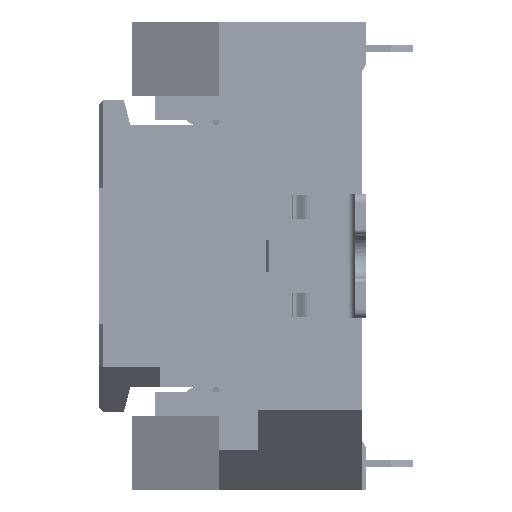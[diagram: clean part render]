
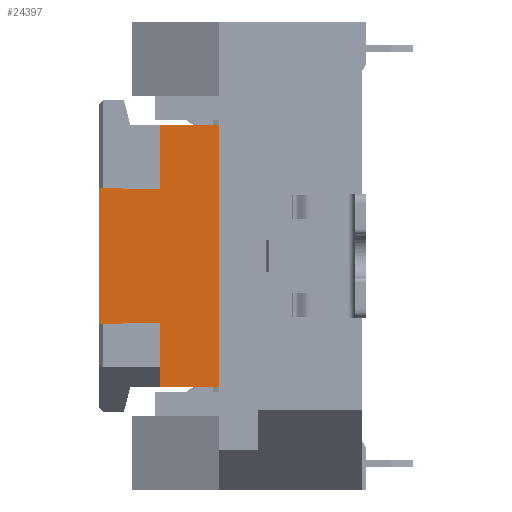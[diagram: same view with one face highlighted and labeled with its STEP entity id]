
A CAD part, left-side view. The second image highlights one B-rep face of the part: STEP entity #24397.
In plain terms, the highlighted planar face has unit normal (-1, 0, 0).
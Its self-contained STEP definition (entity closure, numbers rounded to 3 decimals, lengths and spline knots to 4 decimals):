
#177 = CARTESIAN_POINT ( 'NONE',  ( -13.95, 0.85, -1.93 ) ) ;
#1419 = DIRECTION ( 'NONE',  ( 0., 0., -1. ) ) ;
#6246 = EDGE_CURVE ( 'NONE', #69586, #401630, #162455, .T. ) ;
#6339 = LINE ( 'NONE', #411329, #383858 ) ;
#10008 = EDGE_CURVE ( 'NONE', #460381, #244591, #254526, .T. ) ;
#14517 = LINE ( 'NONE', #301459, #429096 ) ;
#18787 = CARTESIAN_POINT ( 'NONE',  ( -13.95, 0.85, -1.5 ) ) ;
#20241 = VERTEX_POINT ( 'NONE', #179392 ) ;
#22866 = ORIENTED_EDGE ( 'NONE', *, *, #51935, .F. ) ;
#24397 = ADVANCED_FACE ( 'NONE', ( #301022 ), #416670, .F. ) ;
#25829 = CARTESIAN_POINT ( 'NONE',  ( -13.95, 0.1, 2.23 ) ) ;
#42530 = CARTESIAN_POINT ( 'NONE',  ( -13.95, 0.85, 1.93 ) ) ;
#44817 = CARTESIAN_POINT ( 'NONE',  ( -13.95, 1.65, -1.5 ) ) ;
#48988 = CARTESIAN_POINT ( 'NONE',  ( -13.95, 0.1, 2.23 ) ) ;
#49841 = LINE ( 'NONE', #454787, #268506 ) ;
#51935 = EDGE_CURVE ( 'NONE', #116498, #168794, #436389, .T. ) ;
#55383 = EDGE_CURVE ( 'NONE', #168794, #63307, #14517, .T. ) ;
#63307 = VERTEX_POINT ( 'NONE', #359192 ) ;
#69586 = VERTEX_POINT ( 'NONE', #309320 ) ;
#72645 = VECTOR ( 'NONE', #147772, 1000. ) ;
#75921 = DIRECTION ( 'NONE',  ( 0., 0., -1. ) ) ;
#77455 = CARTESIAN_POINT ( 'NONE',  ( -13.95, 5.9, -1.5239 ) ) ;
#80138 = LINE ( 'NONE', #116324, #72645 ) ;
#85173 = LINE ( 'NONE', #48988, #413586 ) ;
#88801 = CARTESIAN_POINT ( 'NONE',  ( -13.95, 1.65, 1.5 ) ) ;
#93917 = VERTEX_POINT ( 'NONE', #177 ) ;
#97534 = VECTOR ( 'NONE', #111676, 1000. ) ;
#104226 = LINE ( 'NONE', #235106, #302902 ) ;
#110849 = EDGE_CURVE ( 'NONE', #20241, #116498, #170540, .T. ) ;
#111676 = DIRECTION ( 'NONE',  ( 0., 1., -0.017 ) ) ;
#116324 = CARTESIAN_POINT ( 'NONE',  ( -13.95, 0.85, -1.93 ) ) ;
#116498 = VERTEX_POINT ( 'NONE', #42530 ) ;
#117415 = ORIENTED_EDGE ( 'NONE', *, *, #354521, .F. ) ;
#118084 = ORIENTED_EDGE ( 'NONE', *, *, #55383, .F. ) ;
#119889 = DIRECTION ( 'NONE',  ( 0., 1., 0. ) ) ;
#124178 = EDGE_CURVE ( 'NONE', #359756, #169704, #295202, .T. ) ;
#133193 = VERTEX_POINT ( 'NONE', #246471 ) ;
#133448 = CARTESIAN_POINT ( 'NONE',  ( -13.95, 0.1, -2.95 ) ) ;
#134454 = DIRECTION ( 'NONE',  ( 0., 0.928, -0.371 ) ) ;
#135659 = DIRECTION ( 'NONE',  ( 0., -1., 0. ) ) ;
#138364 = CARTESIAN_POINT ( 'NONE',  ( -13.95, 4.53, -1.5 ) ) ;
#145471 = LINE ( 'NONE', #138364, #97534 ) ;
#147772 = DIRECTION ( 'NONE',  ( 0., -0.928, -0.371 ) ) ;
#159907 = DIRECTION ( 'NONE',  ( 0., 0., 1. ) ) ;
#161170 = DIRECTION ( 'NONE',  ( 0., 0., -1. ) ) ;
#161656 = DIRECTION ( 'NONE',  ( 0., 1., 0. ) ) ;
#162066 = ORIENTED_EDGE ( 'NONE', *, *, #473639, .F. ) ;
#162455 = LINE ( 'NONE', #133448, #352169 ) ;
#165927 = DIRECTION ( 'NONE',  ( 0., 0., -1. ) ) ;
#168794 = VERTEX_POINT ( 'NONE', #273094 ) ;
#169561 = VECTOR ( 'NONE', #134454, 1000. ) ;
#169704 = VERTEX_POINT ( 'NONE', #386426 ) ;
#169872 = ORIENTED_EDGE ( 'NONE', *, *, #427799, .T. ) ;
#170540 = LINE ( 'NONE', #25829, #169561 ) ;
#179240 = VERTEX_POINT ( 'NONE', #225381 ) ;
#179392 = CARTESIAN_POINT ( 'NONE',  ( -13.95, 0.1, 2.23 ) ) ;
#194138 = VERTEX_POINT ( 'NONE', #468228 ) ;
#194678 = ORIENTED_EDGE ( 'NONE', *, *, #280155, .T. ) ;
#199664 = LINE ( 'NONE', #88801, #309479 ) ;
#204133 = EDGE_CURVE ( 'NONE', #194138, #133193, #329256, .T. ) ;
#210134 = CARTESIAN_POINT ( 'NONE',  ( -13.95, 4.53, -1.5 ) ) ;
#210785 = ORIENTED_EDGE ( 'NONE', *, *, #345842, .F. ) ;
#215746 = CARTESIAN_POINT ( 'NONE',  ( -13.95, 4.53, -1.5 ) ) ;
#221613 = VECTOR ( 'NONE', #279801, 1000. ) ;
#225381 = CARTESIAN_POINT ( 'NONE',  ( -13.95, 0.85, -1.5 ) ) ;
#225801 = VECTOR ( 'NONE', #285954, 1000. ) ;
#235106 = CARTESIAN_POINT ( 'NONE',  ( -13.95, 4.53, -2.95 ) ) ;
#237546 = EDGE_LOOP ( 'NONE', ( #117415, #118084, #22866, #404743, #194678, #169872, #332264, #162066, #424156, #425544, #368846, #336132, #449788, #419795, #392491, #210785 ) ) ;
#242233 = VECTOR ( 'NONE', #161170, 1000. ) ;
#243672 = CARTESIAN_POINT ( 'NONE',  ( -13.95, 0.85, 1.93 ) ) ;
#244591 = VERTEX_POINT ( 'NONE', #431967 ) ;
#246471 = CARTESIAN_POINT ( 'NONE',  ( -13.95, 4.53, 1.5 ) ) ;
#250459 = AXIS2_PLACEMENT_3D ( 'NONE', #414299, #344320, #264875 ) ;
#254526 = LINE ( 'NONE', #322113, #225801 ) ;
#264875 = DIRECTION ( 'NONE',  ( 0., 1., 0. ) ) ;
#268506 = VECTOR ( 'NONE', #119889, 1000. ) ;
#271935 = LINE ( 'NONE', #18787, #242233 ) ;
#273094 = CARTESIAN_POINT ( 'NONE',  ( -13.95, 0.85, 1.5 ) ) ;
#279801 = DIRECTION ( 'NONE',  ( 0., 0., -1. ) ) ;
#280155 = EDGE_CURVE ( 'NONE', #20241, #318966, #85173, .T. ) ;
#285954 = DIRECTION ( 'NONE',  ( 0., 0., 1. ) ) ;
#295202 = LINE ( 'NONE', #215746, #448868 ) ;
#301022 = FACE_OUTER_BOUND ( 'NONE', #237546, .T. ) ;
#301459 = CARTESIAN_POINT ( 'NONE',  ( -13.95, 0.85, 1.5 ) ) ;
#302902 = VECTOR ( 'NONE', #135659, 1000. ) ;
#309320 = CARTESIAN_POINT ( 'NONE',  ( -13.95, 0.1, -2.95 ) ) ;
#309479 = VECTOR ( 'NONE', #165927, 1000. ) ;
#309681 = LINE ( 'NONE', #420598, #317777 ) ;
#316819 = DIRECTION ( 'NONE',  ( 0., -1., -0.017 ) ) ;
#317777 = VECTOR ( 'NONE', #316819, 1000. ) ;
#318966 = VERTEX_POINT ( 'NONE', #383065 ) ;
#322113 = CARTESIAN_POINT ( 'NONE',  ( -13.95, 5.9, -1.5239 ) ) ;
#328514 = EDGE_CURVE ( 'NONE', #93917, #401630, #80138, .T. ) ;
#329256 = LINE ( 'NONE', #476317, #363144 ) ;
#332264 = ORIENTED_EDGE ( 'NONE', *, *, #204133, .T. ) ;
#336132 = ORIENTED_EDGE ( 'NONE', *, *, #424818, .T. ) ;
#344320 = DIRECTION ( 'NONE',  ( 1., 0., 0. ) ) ;
#345842 = EDGE_CURVE ( 'NONE', #424695, #179240, #6339, .T. ) ;
#352169 = VECTOR ( 'NONE', #359801, 1000. ) ;
#354521 = EDGE_CURVE ( 'NONE', #63307, #424695, #199664, .T. ) ;
#359192 = CARTESIAN_POINT ( 'NONE',  ( -13.95, 1.65, 1.5 ) ) ;
#359756 = VERTEX_POINT ( 'NONE', #210134 ) ;
#359801 = DIRECTION ( 'NONE',  ( 0., 0., 1. ) ) ;
#361713 = CARTESIAN_POINT ( 'NONE',  ( -13.95, 0.1, -2.23 ) ) ;
#363144 = VECTOR ( 'NONE', #1419, 1000. ) ;
#368846 = ORIENTED_EDGE ( 'NONE', *, *, #124178, .T. ) ;
#383065 = CARTESIAN_POINT ( 'NONE',  ( -13.95, 0.1, 2.95 ) ) ;
#383858 = VECTOR ( 'NONE', #440332, 1000. ) ;
#386426 = CARTESIAN_POINT ( 'NONE',  ( -13.95, 4.53, -2.95 ) ) ;
#392491 = ORIENTED_EDGE ( 'NONE', *, *, #454012, .F. ) ;
#401630 = VERTEX_POINT ( 'NONE', #361713 ) ;
#402334 = EDGE_CURVE ( 'NONE', #359756, #460381, #145471, .T. ) ;
#404743 = ORIENTED_EDGE ( 'NONE', *, *, #110849, .F. ) ;
#411329 = CARTESIAN_POINT ( 'NONE',  ( -13.95, 1.65, -1.5 ) ) ;
#413586 = VECTOR ( 'NONE', #159907, 1000. ) ;
#414299 = CARTESIAN_POINT ( 'NONE',  ( -13.95, 3., 0. ) ) ;
#416670 = PLANE ( 'NONE',  #250459 ) ;
#419795 = ORIENTED_EDGE ( 'NONE', *, *, #328514, .F. ) ;
#420598 = CARTESIAN_POINT ( 'NONE',  ( -13.95, 5.9, 1.5239 ) ) ;
#424156 = ORIENTED_EDGE ( 'NONE', *, *, #10008, .F. ) ;
#424695 = VERTEX_POINT ( 'NONE', #44817 ) ;
#424818 = EDGE_CURVE ( 'NONE', #169704, #69586, #104226, .T. ) ;
#425544 = ORIENTED_EDGE ( 'NONE', *, *, #402334, .F. ) ;
#427799 = EDGE_CURVE ( 'NONE', #318966, #194138, #49841, .T. ) ;
#429096 = VECTOR ( 'NONE', #161656, 1000. ) ;
#431967 = CARTESIAN_POINT ( 'NONE',  ( -13.95, 5.9, 1.5239 ) ) ;
#436389 = LINE ( 'NONE', #243672, #221613 ) ;
#440332 = DIRECTION ( 'NONE',  ( 0., -1., 0. ) ) ;
#448868 = VECTOR ( 'NONE', #75921, 1000. ) ;
#449788 = ORIENTED_EDGE ( 'NONE', *, *, #6246, .T. ) ;
#454012 = EDGE_CURVE ( 'NONE', #179240, #93917, #271935, .T. ) ;
#454787 = CARTESIAN_POINT ( 'NONE',  ( -13.95, 0.1, 2.95 ) ) ;
#460381 = VERTEX_POINT ( 'NONE', #77455 ) ;
#468228 = CARTESIAN_POINT ( 'NONE',  ( -13.95, 4.53, 2.95 ) ) ;
#473639 = EDGE_CURVE ( 'NONE', #244591, #133193, #309681, .T. ) ;
#476317 = CARTESIAN_POINT ( 'NONE',  ( -13.95, 4.53, 2.95 ) ) ;
